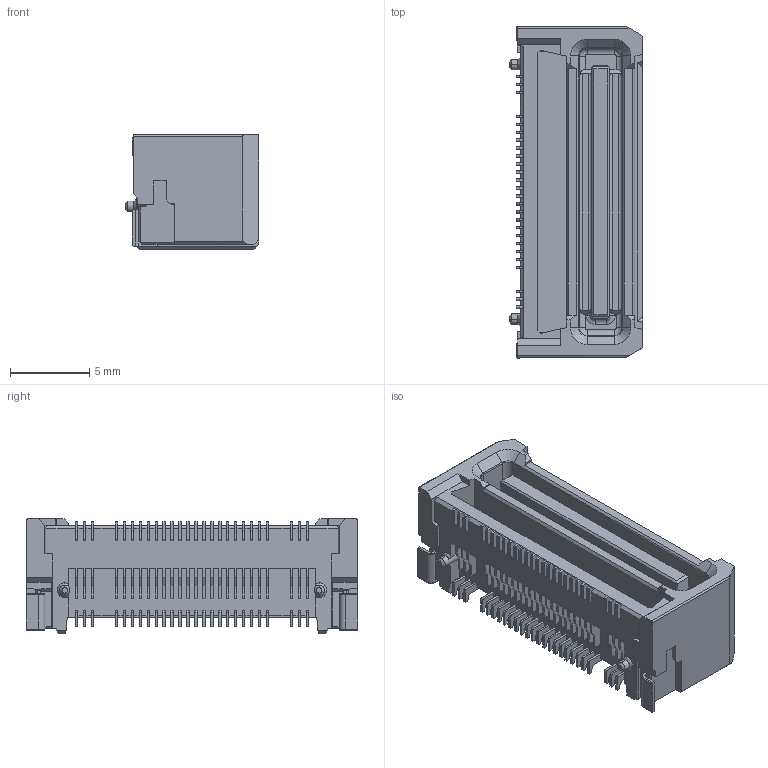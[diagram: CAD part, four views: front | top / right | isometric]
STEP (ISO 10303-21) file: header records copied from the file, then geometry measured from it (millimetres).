
FILE_DESCRIPTION (( 'STEP AP214' ), '1' );
FILE_NAME ('24_5656_052_102_829_+T.STEP', '2017-10-25T05:04:11', ( 'Asmin' ), ( '' ), 'SwSTEP 2.0', 'SolidWorks 2014', '' );
FILE_SCHEMA (( 'AUTOMOTIVE_DESIGN' ));
Length unit declared in the file: millimetre
Products named in the file (1): 24_5656_052_102_829_+T
Bounding box: 8.4 x 20.88 x 7.2 mm (x, y, z)
Volume: 734.1 mm3; surface area: 1242.1 mm2
Topology: 1 solids, 1 shells, 1027 faces, 3085 edges, 2034 vertices
Faces by surface type: plane 908, cylinder 91, cone 18, bspline 10
Entity records: 45621 total; most frequent: CARTESIAN_POINT 6441, ORIENTED_EDGE 6170, DIRECTION 5285, EDGE_CURVE 3085, VECTOR 2845, LINE 2845, VERTEX_POINT 2034, AXIS2_PLACEMENT_3D 1220
